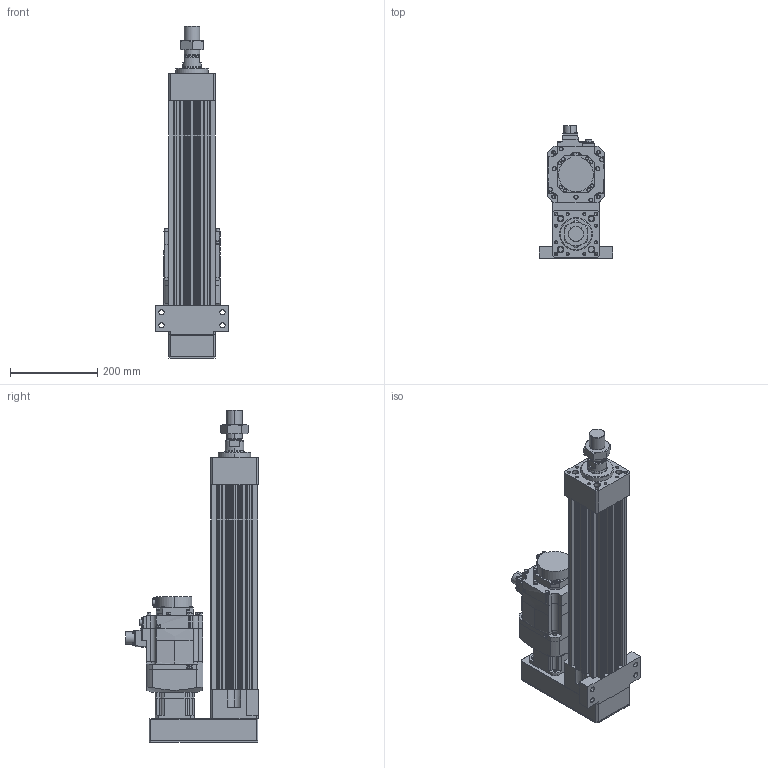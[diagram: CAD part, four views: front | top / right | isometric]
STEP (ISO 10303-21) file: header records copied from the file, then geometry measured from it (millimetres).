
FILE_DESCRIPTION (( 'STEP AP203' ), '1' );
FILE_NAME ('HES110NS(HS)-P300-W010G00-M-FFC.STEP', '2026-06-10T05:54:25', ( 'tms' ), ( '' ), 'SwSTEP 2.0', 'SolidWorks 2013', '' );
FILE_SCHEMA (( 'CONFIG_CONTROL_DESIGN' ));
Length unit declared in the file: millimetre
Products named in the file (8): AB0901; HES110-P-G90; M36X1.5P; HES110-FFC-300; HES110-M-ROD-300; HES110NS(HS)-P300-W010G00-M-FFC; AB0902; HG-SR102B
Assembly tree (7 placements, depth 2):
  HES110NS(HS)-P300-W010G00-M-FFC
    HES110-FFC-300
    HES110-M-ROD-300
    M36X1.5P
    HES110-P-G90
    AB0901
    AB0902
    HG-SR102B
Bounding box: 170 x 304.99 x 763 mm (x, y, z)
Volume: 7665125.1 mm3; surface area: 981202.4 mm2
Topology: 5 solids, 12 shells, 1191 faces, 3016 edges, 1941 vertices
Faces by surface type: cylinder 566, plane 511, cone 100, bspline 10, torus 4
Entity records: 37824 total; most frequent: CARTESIAN_POINT 7444, DIRECTION 6527, ORIENTED_EDGE 5940, EDGE_CURVE 2980, AXIS2_PLACEMENT_3D 2448, VERTEX_POINT 1941, VECTOR 1631, LINE 1631
